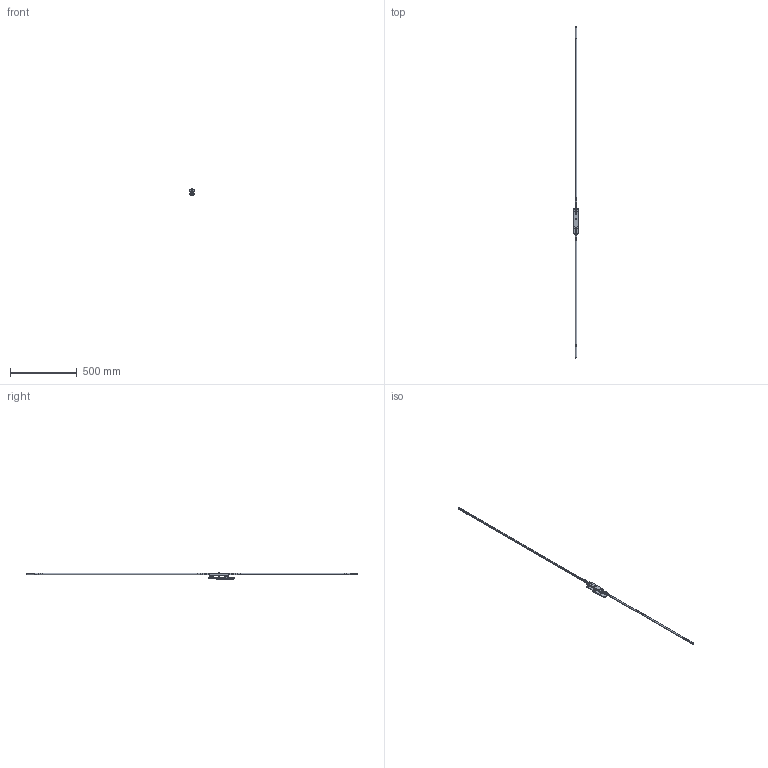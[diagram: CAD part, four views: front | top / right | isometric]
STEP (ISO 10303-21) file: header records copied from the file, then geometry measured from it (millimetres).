
FILE_DESCRIPTION (( 'STEP AP214' ), '1' );
FILE_NAME ('TPL-H-APC-101-C 17Oct2024.STEP', '2024-10-17T04:25:52', ( '' ), ( '' ), 'SwSTEP 2.0', 'SolidWorks 2023', '' );
FILE_SCHEMA (( 'AUTOMOTIVE_DESIGN' ));
Length unit declared in the file: millimetre
Products named in the file (16): Copy of LKC-585 Rotator body zinc^Copy of TPGen2 handle non-keyed short zinc - simplified_TPL-H-APC-601 16Oct2024; Copy of LKC-516 Escutcheon plate unkeyed 195mm long zinc - simplified^Copy of TPGen2 handle non-keyed short zinc - simplified_TPL-H-APC-601 16Oct2024; TPL-H-APC-101-C 17Oct2024; Copy of LKC-584 Pivot body zinc - simplified^Copy of TPGen2 handle non-keyed short zinc - simplified_TPL-H-APC-601 16Oct2024; TPLGen2 push rod - simplified_Female thread M10; Copy of LKC-586 Spindle square 8mm with M4 hole^Copy of TPGen2 handle non-keyed short zinc - simplified_TPL-H-APC-601 16Oct2024_37mm; Copy of TPL-H-APC-515 04Oct2024^TPL-H-APC-601 16Oct2024; Copy of TPGen2 handle non-keyed short zinc - simplified^TPL-H-APC-601 16Oct2024_Vertical; Copy of LKC-505 Swing handle zinc - simplified^Copy of TPGen2 handle non-keyed short zinc - simplified_TPL-H-APC-601 16Oct2024; Copy of LKC-576 Bolt adaptor - simplified^TPL-H-APC-601 16Oct2024; Copy of LKC-540 Transmission rod aluminium system TPLGen2^TPL-H-APC-601 16Oct2024_2885mm; Copy of TPLGen2 lock body non-keyed^Copy of TPLGen2 lock body non-keyed assembly_TPL-H-APC-601 16Oct2024; Copy of TPL-H-APC-517 04Oct2024^TPL-H-APC-601 16Oct2024; Copy of TPLGen2 lock body non-keyed assembly^TPL-H-APC-601 16Oct2024_Bolts extended; Copy (2) of LKC-540 Transmission rod aluminium system TPLGen2^TPL-H-APC-601 16Oct2024_2885mm; Copy of LKC-532 Rod connector - simplified^TPL-H-APC-601 16Oct2024
Assembly tree (20 placements, depth 3):
  TPL-H-APC-101-C 17Oct2024
    Copy of TPLGen2 lock body non-keyed assembly^TPL-H-APC-601 16Oct2024_Bolts extended
      Copy of TPLGen2 lock body non-keyed^Copy of TPLGen2 lock body non-keyed assembly_TPL-H-APC-601 16Oct2024
      TPLGen2 push rod - simplified_Female thread M10  x2
    Copy of TPGen2 handle non-keyed short zinc - simplified^TPL-H-APC-601 16Oct2024_Vertical
      Copy of LKC-516 Escutcheon plate unkeyed 195mm long zinc - simplified^Copy of TPGen2 handle non-keyed short zinc - simplified_TPL-H-APC-601 16Oct2024
      Copy of LKC-505 Swing handle zinc - simplified^Copy of TPGen2 handle non-keyed short zinc - simplified_TPL-H-APC-601 16Oct2024
      Copy of LKC-585 Rotator body zinc^Copy of TPGen2 handle non-keyed short zinc - simplified_TPL-H-APC-601 16Oct2024
      Copy of LKC-586 Spindle square 8mm with M4 hole^Copy of TPGen2 handle non-keyed short zinc - simplified_TPL-H-APC-601 16Oct2024_37mm
      Copy of LKC-584 Pivot body zinc - simplified^Copy of TPGen2 handle non-keyed short zinc - simplified_TPL-H-APC-601 16Oct2024
    Copy of LKC-532 Rod connector - simplified^TPL-H-APC-601 16Oct2024  x2
    Copy of LKC-540 Transmission rod aluminium system TPLGen2^TPL-H-APC-601 16Oct2024_2885mm
    Copy (2) of LKC-540 Transmission rod aluminium system TPLGen2^TPL-H-APC-601 16Oct2024_2885mm
    Copy of LKC-576 Bolt adaptor - simplified^TPL-H-APC-601 16Oct2024  x2
    Copy of TPL-H-APC-517 04Oct2024^TPL-H-APC-601 16Oct2024  x2
    Copy of TPL-H-APC-515 04Oct2024^TPL-H-APC-601 16Oct2024  x2
Bounding box: 35 x 2495.9 x 51.46 mm (x, y, z)
Volume: 263154.8 mm3; surface area: 212484.4 mm2
Topology: 18 solids, 18 shells, 1211 faces, 2950 edges, 1796 vertices
Faces by surface type: plane 366, cylinder 336, bspline 273, cone 118, torus 92, sphere 26
Entity records: 34663 total; most frequent: CARTESIAN_POINT 14153, ORIENTED_EDGE 4456, DIRECTION 3768, EDGE_CURVE 2228, AXIS2_PLACEMENT_3D 1430, VERTEX_POINT 1369, EDGE_LOOP 1023, FACE_OUTER_BOUND 932
